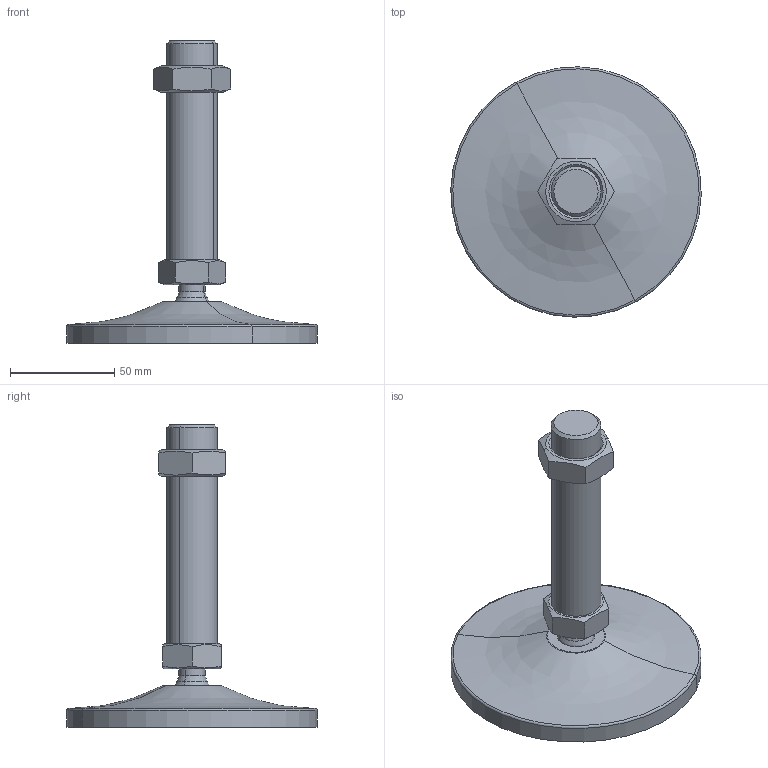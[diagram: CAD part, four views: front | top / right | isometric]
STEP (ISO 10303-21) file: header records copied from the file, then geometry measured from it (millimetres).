
FILE_DESCRIPTION(('CATIA V5 STEP Exchange'),'2;1');
FILE_NAME('C:\Users\ALI OZGUN\Desktop\alhan\saplama2\560122415.stp','2017-09-21T10:36:18+00:00',('none'),('none'),'CATIA Version 5 Release 21 GA (IN-10)','CATIA V5 STEP AP203','none');
FILE_SCHEMA(('CONFIG_CONTROL_DESIGN'));
Length unit declared in the file: millimetre
Products named in the file (1): 560122415
Bounding box: 119.97 x 119.97 x 145 mm (x, y, z)
Volume: 148543.9 mm3; surface area: 42375 mm2
Topology: 3 solids, 3 shells, 60 faces, 136 edges, 83 vertices
Faces by surface type: plane 20, cone 16, cylinder 14, torus 4, revolution 4, sphere 2
Entity records: 1857 total; most frequent: CARTESIAN_POINT 615, ORIENTED_EDGE 268, DIRECTION 185, EDGE_CURVE 134, AXIS2_PLACEMENT_3D 99, VERTEX_POINT 83, EDGE_LOOP 67, ADVANCED_FACE 60
